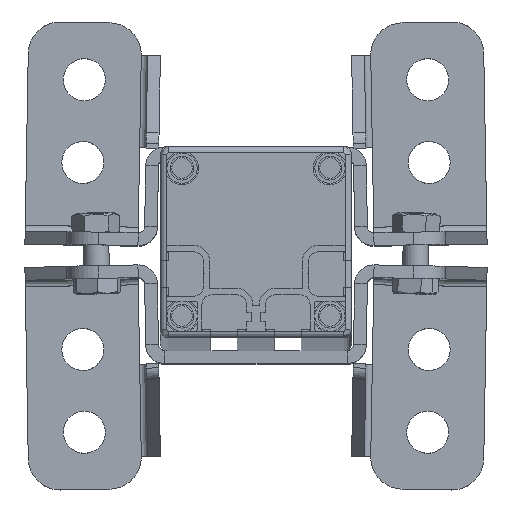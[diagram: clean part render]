
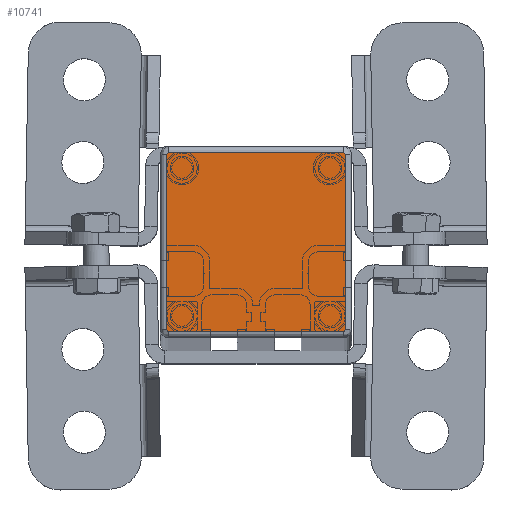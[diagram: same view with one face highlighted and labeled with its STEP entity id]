
A CAD part, top view. The second image highlights one B-rep face of the part: STEP entity #10741.
In plain terms, the highlighted planar face has unit normal (0, 0, 1).
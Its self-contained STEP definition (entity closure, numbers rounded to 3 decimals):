
#853=FACE_OUTER_BOUND('',#1464,.T.);
#1464=EDGE_LOOP('',(#8632,#8633,#8634,#8635,#8636,#8637,#8638,#8639));
#1995=CIRCLE('',#11707,0.5);
#1996=CIRCLE('',#11708,0.5);
#1997=CIRCLE('',#11709,0.5);
#1998=CIRCLE('',#11710,0.5);
#2770=LINE('',#17865,#3701);
#2771=LINE('',#17869,#3702);
#2772=LINE('',#17873,#3703);
#2773=LINE('',#17876,#3704);
#3701=VECTOR('',#14209,55.);
#3702=VECTOR('',#14212,55.);
#3703=VECTOR('',#14215,55.);
#3704=VECTOR('',#14218,55.);
#4753=VERTEX_POINT('',#17861);
#4754=VERTEX_POINT('',#17862);
#4755=VERTEX_POINT('',#17864);
#4756=VERTEX_POINT('',#17866);
#4757=VERTEX_POINT('',#17868);
#4758=VERTEX_POINT('',#17870);
#4759=VERTEX_POINT('',#17872);
#4760=VERTEX_POINT('',#17874);
#6119=EDGE_CURVE('',#4753,#4754,#1995,.T.);
#6120=EDGE_CURVE('',#4754,#4755,#2770,.T.);
#6121=EDGE_CURVE('',#4755,#4756,#1996,.T.);
#6122=EDGE_CURVE('',#4756,#4757,#2771,.T.);
#6123=EDGE_CURVE('',#4757,#4758,#1997,.T.);
#6124=EDGE_CURVE('',#4758,#4759,#2772,.T.);
#6125=EDGE_CURVE('',#4759,#4760,#1998,.T.);
#6126=EDGE_CURVE('',#4760,#4753,#2773,.T.);
#8632=ORIENTED_EDGE('',*,*,#6119,.T.);
#8633=ORIENTED_EDGE('',*,*,#6120,.T.);
#8634=ORIENTED_EDGE('',*,*,#6121,.T.);
#8635=ORIENTED_EDGE('',*,*,#6122,.T.);
#8636=ORIENTED_EDGE('',*,*,#6123,.T.);
#8637=ORIENTED_EDGE('',*,*,#6124,.T.);
#8638=ORIENTED_EDGE('',*,*,#6125,.T.);
#8639=ORIENTED_EDGE('',*,*,#6126,.T.);
#9738=PLANE('',#11706);
#10741=ADVANCED_FACE('',(#853),#9738,.F.);
#11706=AXIS2_PLACEMENT_3D('',#17860,#14205,#14206);
#11707=AXIS2_PLACEMENT_3D('',#17863,#14207,#14208);
#11708=AXIS2_PLACEMENT_3D('',#17867,#14210,#14211);
#11709=AXIS2_PLACEMENT_3D('',#17871,#14213,#14214);
#11710=AXIS2_PLACEMENT_3D('',#17875,#14216,#14217);
#14205=DIRECTION('center_axis',(0.,0.,-1.));
#14206=DIRECTION('ref_axis',(-1.,0.,0.));
#14207=DIRECTION('center_axis',(0.,0.,1.));
#14208=DIRECTION('ref_axis',(-1.,0.,0.));
#14209=DIRECTION('',(-1.,0.,0.));
#14210=DIRECTION('center_axis',(0.,0.,1.));
#14211=DIRECTION('ref_axis',(-1.,0.,0.));
#14212=DIRECTION('',(0.,-1.,0.));
#14213=DIRECTION('center_axis',(0.,0.,1.));
#14214=DIRECTION('ref_axis',(-1.,0.,0.));
#14215=DIRECTION('',(1.,0.,0.));
#14216=DIRECTION('center_axis',(0.,0.,1.));
#14217=DIRECTION('ref_axis',(-1.,0.,0.));
#14218=DIRECTION('',(0.,1.,0.));
#17860=CARTESIAN_POINT('Origin',(30.8,-30.8,2493.));
#17861=CARTESIAN_POINT('',(28.,27.5,2493.));
#17862=CARTESIAN_POINT('',(27.5,28.,2493.));
#17863=CARTESIAN_POINT('Origin',(27.5,27.5,2493.));
#17864=CARTESIAN_POINT('',(-27.5,28.,2493.));
#17865=CARTESIAN_POINT('',(27.5,28.,2493.));
#17866=CARTESIAN_POINT('',(-28.,27.5,2493.));
#17867=CARTESIAN_POINT('Origin',(-27.5,27.5,2493.));
#17868=CARTESIAN_POINT('',(-28.,-27.5,2493.));
#17869=CARTESIAN_POINT('',(-28.,27.5,2493.));
#17870=CARTESIAN_POINT('',(-27.5,-28.,2493.));
#17871=CARTESIAN_POINT('Origin',(-27.5,-27.5,2493.));
#17872=CARTESIAN_POINT('',(27.5,-28.,2493.));
#17873=CARTESIAN_POINT('',(-27.5,-28.,2493.));
#17874=CARTESIAN_POINT('',(28.,-27.5,2493.));
#17875=CARTESIAN_POINT('Origin',(27.5,-27.5,2493.));
#17876=CARTESIAN_POINT('',(28.,-27.5,2493.));
